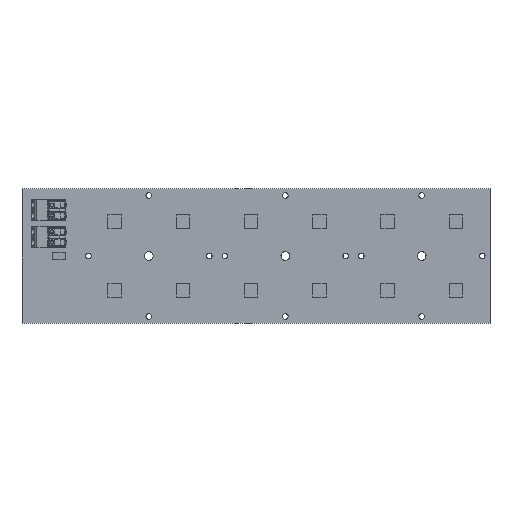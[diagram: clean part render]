
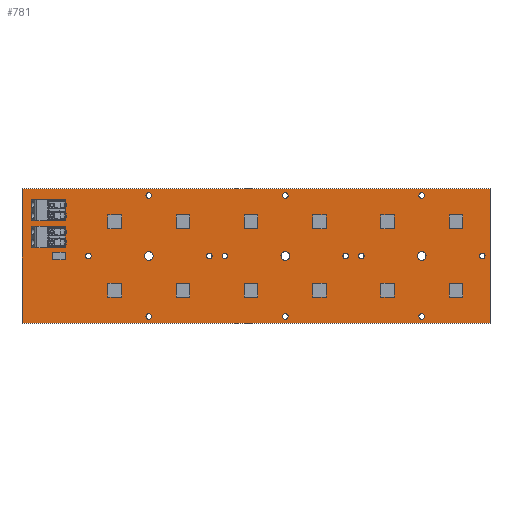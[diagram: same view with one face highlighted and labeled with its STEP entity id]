
A CAD part, top view. The second image highlights one B-rep face of the part: STEP entity #781.
In plain terms, the highlighted planar face has unit normal (0, 0, 1).
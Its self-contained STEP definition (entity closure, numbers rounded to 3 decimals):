
#112 = VERTEX_POINT('',#113);
#113 = CARTESIAN_POINT('',(0.,0.,1.6));
#119 = EDGE_CURVE('',#112,#120,#122,.T.);
#120 = VERTEX_POINT('',#121);
#121 = CARTESIAN_POINT('',(0.,50.,1.6));
#122 = LINE('',#123,#124);
#123 = CARTESIAN_POINT('',(0.,0.,1.6));
#124 = VECTOR('',#125,1.);
#125 = DIRECTION('',(0.,1.,0.));
#150 = EDGE_CURVE('',#120,#151,#153,.T.);
#151 = VERTEX_POINT('',#152);
#152 = CARTESIAN_POINT('',(174.2,50.,1.6));
#153 = LINE('',#154,#155);
#154 = CARTESIAN_POINT('',(0.,50.,1.6));
#155 = VECTOR('',#156,1.);
#156 = DIRECTION('',(1.,0.,0.));
#181 = EDGE_CURVE('',#151,#182,#184,.T.);
#182 = VERTEX_POINT('',#183);
#183 = CARTESIAN_POINT('',(174.2,0.,1.6));
#184 = LINE('',#185,#186);
#185 = CARTESIAN_POINT('',(174.2,50.,1.6));
#186 = VECTOR('',#187,1.);
#187 = DIRECTION('',(0.,-1.,0.));
#212 = EDGE_CURVE('',#182,#112,#213,.T.);
#213 = LINE('',#214,#215);
#214 = CARTESIAN_POINT('',(174.2,0.,1.6));
#215 = VECTOR('',#216,1.);
#216 = DIRECTION('',(-1.,0.,0.));
#236 = VERTEX_POINT('',#237);
#237 = CARTESIAN_POINT('',(48.25,2.5,1.6));
#243 = EDGE_CURVE('',#236,#236,#244,.T.);
#244 = CIRCLE('',#245,1.05);
#245 = AXIS2_PLACEMENT_3D('',#246,#247,#248);
#246 = CARTESIAN_POINT('',(47.2,2.5,1.6));
#247 = DIRECTION('',(0.,0.,1.));
#248 = DIRECTION('',(1.,0.,-0.));
#269 = VERTEX_POINT('',#270);
#270 = CARTESIAN_POINT('',(99.6,25.,1.6));
#276 = EDGE_CURVE('',#269,#269,#277,.T.);
#277 = CIRCLE('',#278,1.6);
#278 = AXIS2_PLACEMENT_3D('',#279,#280,#281);
#279 = CARTESIAN_POINT('',(98.,25.,1.6));
#280 = DIRECTION('',(0.,0.,1.));
#281 = DIRECTION('',(1.,0.,-0.));
#302 = VERTEX_POINT('',#303);
#303 = CARTESIAN_POINT('',(48.8,25.,1.6));
#309 = EDGE_CURVE('',#302,#302,#310,.T.);
#310 = CIRCLE('',#311,1.6);
#311 = AXIS2_PLACEMENT_3D('',#312,#313,#314);
#312 = CARTESIAN_POINT('',(47.2,25.,1.6));
#313 = DIRECTION('',(0.,0.,1.));
#314 = DIRECTION('',(1.,0.,-0.));
#335 = VERTEX_POINT('',#336);
#336 = CARTESIAN_POINT('',(25.75,25.,1.6));
#342 = EDGE_CURVE('',#335,#335,#343,.T.);
#343 = CIRCLE('',#344,1.05);
#344 = AXIS2_PLACEMENT_3D('',#345,#346,#347);
#345 = CARTESIAN_POINT('',(24.7,25.,1.6));
#346 = DIRECTION('',(0.,0.,1.));
#347 = DIRECTION('',(1.,0.,-0.));
#368 = VERTEX_POINT('',#369);
#369 = CARTESIAN_POINT('',(48.25,47.5,1.6));
#375 = EDGE_CURVE('',#368,#368,#376,.T.);
#376 = CIRCLE('',#377,1.05);
#377 = AXIS2_PLACEMENT_3D('',#378,#379,#380);
#378 = CARTESIAN_POINT('',(47.2,47.5,1.6));
#379 = DIRECTION('',(0.,0.,1.));
#380 = DIRECTION('',(1.,0.,-0.));
#401 = VERTEX_POINT('',#402);
#402 = CARTESIAN_POINT('',(76.55,25.,1.6));
#408 = EDGE_CURVE('',#401,#401,#409,.T.);
#409 = CIRCLE('',#410,1.05);
#410 = AXIS2_PLACEMENT_3D('',#411,#412,#413);
#411 = CARTESIAN_POINT('',(75.5,25.,1.6));
#412 = DIRECTION('',(0.,0.,1.));
#413 = DIRECTION('',(1.,0.,-0.));
#434 = VERTEX_POINT('',#435);
#435 = CARTESIAN_POINT('',(70.75,25.,1.6));
#441 = EDGE_CURVE('',#434,#434,#442,.T.);
#442 = CIRCLE('',#443,1.05);
#443 = AXIS2_PLACEMENT_3D('',#444,#445,#446);
#444 = CARTESIAN_POINT('',(69.7,25.,1.6));
#445 = DIRECTION('',(0.,0.,1.));
#446 = DIRECTION('',(1.,0.,-0.));
#467 = VERTEX_POINT('',#468);
#468 = CARTESIAN_POINT('',(99.05,2.5,1.6));
#474 = EDGE_CURVE('',#467,#467,#475,.T.);
#475 = CIRCLE('',#476,1.05);
#476 = AXIS2_PLACEMENT_3D('',#477,#478,#479);
#477 = CARTESIAN_POINT('',(98.,2.5,1.6));
#478 = DIRECTION('',(0.,0.,1.));
#479 = DIRECTION('',(1.,0.,-0.));
#500 = VERTEX_POINT('',#501);
#501 = CARTESIAN_POINT('',(121.55,25.,1.6));
#507 = EDGE_CURVE('',#500,#500,#508,.T.);
#508 = CIRCLE('',#509,1.05);
#509 = AXIS2_PLACEMENT_3D('',#510,#511,#512);
#510 = CARTESIAN_POINT('',(120.5,25.,1.6));
#511 = DIRECTION('',(0.,0.,1.));
#512 = DIRECTION('',(1.,0.,-0.));
#533 = VERTEX_POINT('',#534);
#534 = CARTESIAN_POINT('',(149.85,2.5,1.6));
#540 = EDGE_CURVE('',#533,#533,#541,.T.);
#541 = CIRCLE('',#542,1.05);
#542 = AXIS2_PLACEMENT_3D('',#543,#544,#545);
#543 = CARTESIAN_POINT('',(148.8,2.5,1.6));
#544 = DIRECTION('',(0.,0.,1.));
#545 = DIRECTION('',(1.,0.,-0.));
#566 = VERTEX_POINT('',#567);
#567 = CARTESIAN_POINT('',(150.4,25.,1.6));
#573 = EDGE_CURVE('',#566,#566,#574,.T.);
#574 = CIRCLE('',#575,1.6);
#575 = AXIS2_PLACEMENT_3D('',#576,#577,#578);
#576 = CARTESIAN_POINT('',(148.8,25.,1.6));
#577 = DIRECTION('',(0.,0.,1.));
#578 = DIRECTION('',(1.,0.,-0.));
#599 = VERTEX_POINT('',#600);
#600 = CARTESIAN_POINT('',(127.35,25.,1.6));
#606 = EDGE_CURVE('',#599,#599,#607,.T.);
#607 = CIRCLE('',#608,1.05);
#608 = AXIS2_PLACEMENT_3D('',#609,#610,#611);
#609 = CARTESIAN_POINT('',(126.3,25.,1.6));
#610 = DIRECTION('',(0.,0.,1.));
#611 = DIRECTION('',(1.,0.,-0.));
#632 = VERTEX_POINT('',#633);
#633 = CARTESIAN_POINT('',(99.05,47.5,1.6));
#639 = EDGE_CURVE('',#632,#632,#640,.T.);
#640 = CIRCLE('',#641,1.05);
#641 = AXIS2_PLACEMENT_3D('',#642,#643,#644);
#642 = CARTESIAN_POINT('',(98.,47.5,1.6));
#643 = DIRECTION('',(0.,0.,1.));
#644 = DIRECTION('',(1.,0.,-0.));
#665 = VERTEX_POINT('',#666);
#666 = CARTESIAN_POINT('',(172.35,25.,1.6));
#672 = EDGE_CURVE('',#665,#665,#673,.T.);
#673 = CIRCLE('',#674,1.05);
#674 = AXIS2_PLACEMENT_3D('',#675,#676,#677);
#675 = CARTESIAN_POINT('',(171.3,25.,1.6));
#676 = DIRECTION('',(0.,0.,1.));
#677 = DIRECTION('',(1.,0.,-0.));
#698 = VERTEX_POINT('',#699);
#699 = CARTESIAN_POINT('',(149.85,47.5,1.6));
#705 = EDGE_CURVE('',#698,#698,#706,.T.);
#706 = CIRCLE('',#707,1.05);
#707 = AXIS2_PLACEMENT_3D('',#708,#709,#710);
#708 = CARTESIAN_POINT('',(148.8,47.5,1.6));
#709 = DIRECTION('',(0.,0.,1.));
#710 = DIRECTION('',(1.,0.,-0.));
#781 = ADVANCED_FACE('',(#782,#788,#791,#794,#797,#800,#803,#806,#809,
    #812,#815,#818,#821,#824,#827,#830),#833,.F.);
#782 = FACE_BOUND('',#783,.F.);
#783 = EDGE_LOOP('',(#784,#785,#786,#787));
#784 = ORIENTED_EDGE('',*,*,#119,.T.);
#785 = ORIENTED_EDGE('',*,*,#150,.T.);
#786 = ORIENTED_EDGE('',*,*,#181,.T.);
#787 = ORIENTED_EDGE('',*,*,#212,.T.);
#788 = FACE_BOUND('',#789,.F.);
#789 = EDGE_LOOP('',(#790));
#790 = ORIENTED_EDGE('',*,*,#243,.T.);
#791 = FACE_BOUND('',#792,.F.);
#792 = EDGE_LOOP('',(#793));
#793 = ORIENTED_EDGE('',*,*,#276,.T.);
#794 = FACE_BOUND('',#795,.F.);
#795 = EDGE_LOOP('',(#796));
#796 = ORIENTED_EDGE('',*,*,#309,.T.);
#797 = FACE_BOUND('',#798,.F.);
#798 = EDGE_LOOP('',(#799));
#799 = ORIENTED_EDGE('',*,*,#342,.T.);
#800 = FACE_BOUND('',#801,.F.);
#801 = EDGE_LOOP('',(#802));
#802 = ORIENTED_EDGE('',*,*,#375,.T.);
#803 = FACE_BOUND('',#804,.F.);
#804 = EDGE_LOOP('',(#805));
#805 = ORIENTED_EDGE('',*,*,#408,.T.);
#806 = FACE_BOUND('',#807,.F.);
#807 = EDGE_LOOP('',(#808));
#808 = ORIENTED_EDGE('',*,*,#441,.T.);
#809 = FACE_BOUND('',#810,.F.);
#810 = EDGE_LOOP('',(#811));
#811 = ORIENTED_EDGE('',*,*,#474,.T.);
#812 = FACE_BOUND('',#813,.F.);
#813 = EDGE_LOOP('',(#814));
#814 = ORIENTED_EDGE('',*,*,#507,.T.);
#815 = FACE_BOUND('',#816,.F.);
#816 = EDGE_LOOP('',(#817));
#817 = ORIENTED_EDGE('',*,*,#540,.T.);
#818 = FACE_BOUND('',#819,.F.);
#819 = EDGE_LOOP('',(#820));
#820 = ORIENTED_EDGE('',*,*,#573,.T.);
#821 = FACE_BOUND('',#822,.F.);
#822 = EDGE_LOOP('',(#823));
#823 = ORIENTED_EDGE('',*,*,#606,.T.);
#824 = FACE_BOUND('',#825,.F.);
#825 = EDGE_LOOP('',(#826));
#826 = ORIENTED_EDGE('',*,*,#639,.T.);
#827 = FACE_BOUND('',#828,.F.);
#828 = EDGE_LOOP('',(#829));
#829 = ORIENTED_EDGE('',*,*,#672,.T.);
#830 = FACE_BOUND('',#831,.F.);
#831 = EDGE_LOOP('',(#832));
#832 = ORIENTED_EDGE('',*,*,#705,.T.);
#833 = PLANE('',#834);
#834 = AXIS2_PLACEMENT_3D('',#835,#836,#837);
#835 = CARTESIAN_POINT('',(87.1,25.,1.6));
#836 = DIRECTION('',(-0.,-0.,-1.));
#837 = DIRECTION('',(-1.,0.,0.));
